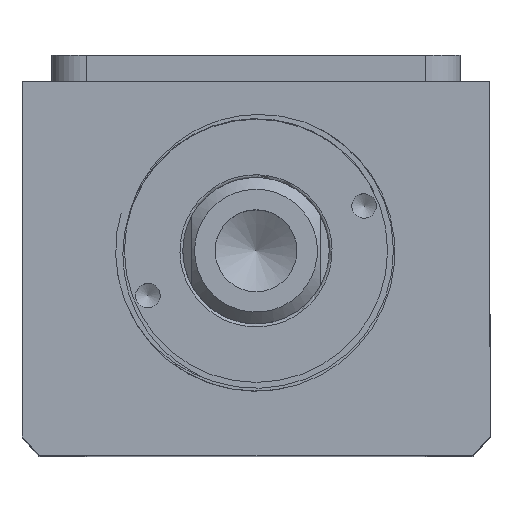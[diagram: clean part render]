
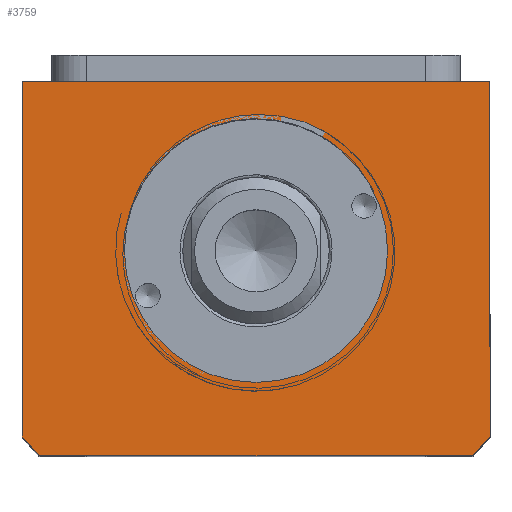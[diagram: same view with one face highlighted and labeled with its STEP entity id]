
A CAD part, top view. The second image highlights one B-rep face of the part: STEP entity #3759.
In plain terms, the highlighted planar face has unit normal (0, 0, 1).
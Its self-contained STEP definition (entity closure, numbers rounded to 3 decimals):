
#3759=ADVANCED_FACE('',(#4614,#4615),#4251,.T.);
#4251=PLANE('',#12429);
#4614=FACE_BOUND('',#4789,.T.);
#4615=FACE_BOUND('',#4790,.T.);
#4789=EDGE_LOOP('',(#7517));
#4790=EDGE_LOOP('',(#7518,#7519,#7520,#7521,#7522,#7523));
#5365=LINE('',#14966,#6351);
#5389=LINE('',#15179,#6375);
#5407=LINE('',#15220,#6393);
#5414=LINE('',#15240,#6400);
#6351=VECTOR('',#12891,1.);
#6375=VECTOR('',#12981,1.);
#6393=VECTOR('',#13005,1.);
#6400=VECTOR('',#13022,1.);
#7517=ORIENTED_EDGE('',*,*,#11019,.F.);
#7518=ORIENTED_EDGE('',*,*,#10981,.T.);
#7519=ORIENTED_EDGE('',*,*,#11057,.T.);
#7520=ORIENTED_EDGE('',*,*,#11048,.T.);
#7521=ORIENTED_EDGE('',*,*,#11058,.T.);
#7522=ORIENTED_EDGE('',*,*,#11028,.T.);
#7523=ORIENTED_EDGE('',*,*,#11059,.T.);
#10074=VERTEX_POINT('',#14964);
#10076=VERTEX_POINT('',#14967);
#10112=VERTEX_POINT('',#15160);
#10121=VERTEX_POINT('',#15178);
#10122=VERTEX_POINT('',#15180);
#10141=VERTEX_POINT('',#15219);
#10142=VERTEX_POINT('',#15221);
#10981=EDGE_CURVE('',#10076,#10074,#5365,.T.);
#11019=EDGE_CURVE('',#10112,#10112,#12313,.T.);
#11028=EDGE_CURVE('',#10122,#10121,#5389,.T.);
#11048=EDGE_CURVE('',#10142,#10141,#5407,.T.);
#11057=EDGE_CURVE('',#10074,#10142,#12319,.T.);
#11058=EDGE_CURVE('',#10141,#10122,#12320,.T.);
#11059=EDGE_CURVE('',#10121,#10076,#5414,.T.);
#12313=CIRCLE('',#12418,22.5);
#12319=CIRCLE('',#12427,51.);
#12320=CIRCLE('',#12428,51.);
#12418=AXIS2_PLACEMENT_3D('',#15159,#12968,#12969);
#12427=AXIS2_PLACEMENT_3D('',#15238,#13018,#13019);
#12428=AXIS2_PLACEMENT_3D('',#15239,#13020,#13021);
#12429=AXIS2_PLACEMENT_3D('',#15241,#13023,#13024);
#12891=DIRECTION('',(0.,-1.,0.));
#12968=DIRECTION('',(0.,0.,1.));
#12969=DIRECTION('',(1.,0.,0.));
#12981=DIRECTION('',(0.,1.,0.));
#13005=DIRECTION('',(1.,0.,0.));
#13018=DIRECTION('',(0.,0.,1.));
#13019=DIRECTION('',(1.,0.,0.));
#13020=DIRECTION('',(0.,0.,1.));
#13021=DIRECTION('',(1.,0.,0.));
#13022=DIRECTION('',(-1.,0.,0.));
#13023=DIRECTION('',(0.,0.,1.));
#13024=DIRECTION('',(-1.,0.,0.));
#14964=CARTESIAN_POINT('',(-86.935,15.167,60.));
#14966=CARTESIAN_POINT('',(-86.935,75.806,60.));
#14967=CARTESIAN_POINT('',(-86.935,75.806,60.));
#15159=CARTESIAN_POINT('',(-46.935,46.806,60.));
#15160=CARTESIAN_POINT('',(-24.435,46.806,60.));
#15178=CARTESIAN_POINT('',(-6.935,75.806,60.));
#15179=CARTESIAN_POINT('',(-6.935,75.806,60.));
#15180=CARTESIAN_POINT('',(-6.935,15.167,60.));
#15219=CARTESIAN_POINT('',(-9.84,11.806,60.));
#15220=CARTESIAN_POINT('',(-86.935,11.806,60.));
#15221=CARTESIAN_POINT('',(-84.029,11.806,60.));
#15238=CARTESIAN_POINT('',(-46.935,46.806,60.));
#15239=CARTESIAN_POINT('',(-46.935,46.806,60.));
#15240=CARTESIAN_POINT('',(-86.935,75.806,60.));
#15241=CARTESIAN_POINT('',(-46.935,87.312,60.));
